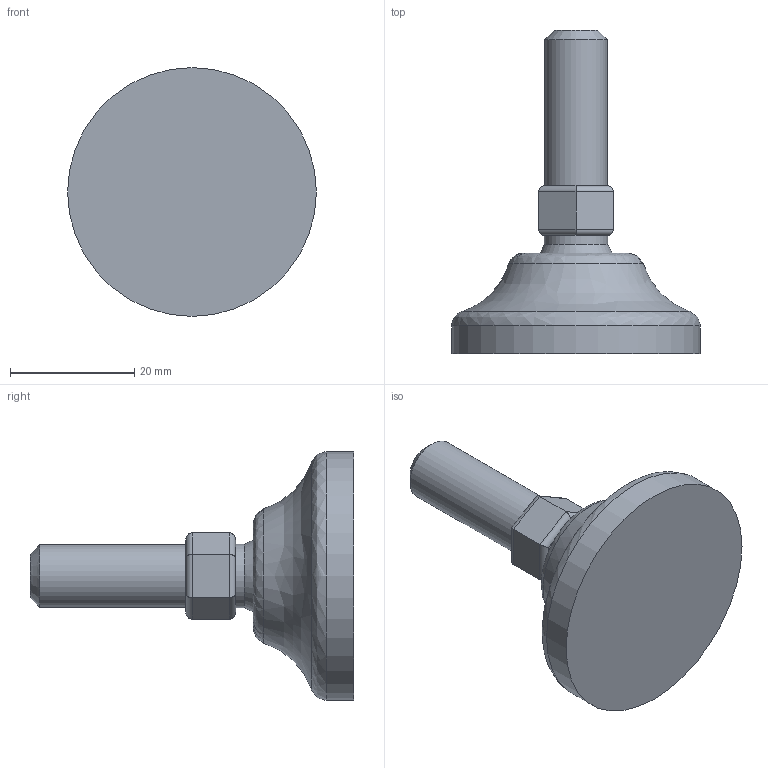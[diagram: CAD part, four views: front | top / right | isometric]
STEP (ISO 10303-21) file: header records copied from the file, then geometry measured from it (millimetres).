
FILE_DESCRIPTION(('STEP AP203'),'2;1');
FILE_NAME('10008.stp','2015-03-30T15:12:02',(''),(''),'2008.1.107','THINKDESIGN','');
FILE_SCHEMA(('CONFIG_CONTROL_DESIGN'));
Length unit declared in the file: millimetre
Bounding box: 40 x 52 x 40 mm (x, y, z)
Volume: 16469.2 mm3; surface area: 5326.7 mm2
Topology: 4 solids, 4 shells, 34 faces, 72 edges, 46 vertices
Faces by surface type: cylinder 15, plane 14, bspline 5
Full cylindrical faces by diameter (mm): 10 x1, 10.163 x1, 39.997 x1
Entity records: 1225 total; most frequent: CARTESIAN_POINT 419, DIRECTION 144, ORIENTED_EDGE 144, EDGE_CURVE 72, AXIS2_PLACEMENT_3D 55, VERTEX_POINT 46, EDGE_LOOP 34, FACE_OUTER_BOUND 34
